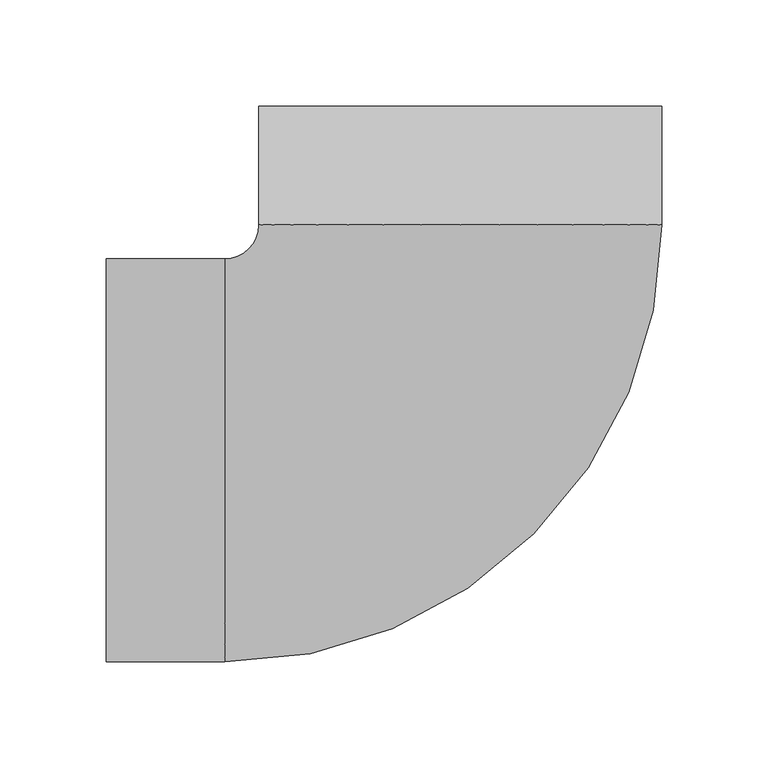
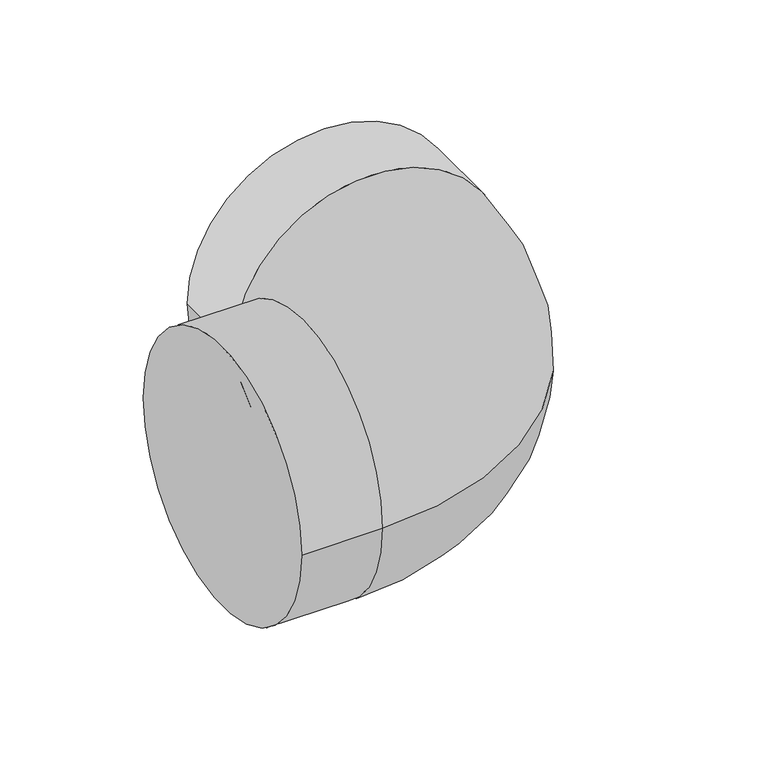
"""IFC4 building model written with IfcOpenShell, lengths in millimetres: pipe fitting geometry, PipeFitting_HTA_CPVC_Elbows : 160mm x 90°."""

from ifc_helpers import new_model, si_unit, point, frame, origin, place, context, project, spatial, circle_curve, ellipse_curve, trimmed, source, transform, mapped, element, save
from ifc_brep_helpers import plane_surface, cylinder_surface, revolved_surface, advanced_brep


def pipe_fitting_ff2f0a7f(model_context):
    return source(origin(), model_context, "Body", "AdvancedBrep", [
        advanced_brep(
        [(-167.0, -95.0, 0.0), (-167.0, 95.0, 0.0), (-111.0, -95.0, 0.0), (-111.0, 95.0, 0.0), (-95.0, 111.0, 0.0), (95.0, 111.0, 0.0), (95.0, 167.0, 0.0), (-95.0, 167.0, 0.0)],
        [
            (0, 1, circle_curve(frame((-167.0, 0.0, 0.0), z_axis=(-1.0, 0.0, 0.0), x_axis=(0.0, 1.0, 0.0)), 95.0)),
            (1, 0, circle_curve(frame((-167.0, 0.0, 0.0), z_axis=(-1.0, 0.0, 0.0), x_axis=(0.0, 1.0, 0.0)), 95.0)),
            (0, 2),
            (2, 3, circle_curve(frame((-111.0, 0.0, 0.0), z_axis=(-1.0, 0.0, 0.0), x_axis=(0.0, 1.0, 0.0)), 95.0)),
            (3, 1),
            (3, 2, circle_curve(frame((-111.0, 0.0, 0.0), z_axis=(-1.0, 0.0, 0.0), x_axis=(0.0, 1.0, 0.0)), 95.0)),
            (4, 3, circle_curve(frame((-111.0, 111.0, 0.0), z_axis=(0.0, 0.0, -1.0), x_axis=(0.0, -1.0, 0.0)), 16.0)),
            (2, 5, circle_curve(frame((-111.0, 111.0, 0.0), z_axis=(0.0, 0.0, 1.0), x_axis=(0.0, -1.0, 0.0)), 206.0)),
            (5, 4, circle_curve(frame((0.0, 111.0, 0.0), z_axis=(0.0, -1.0, 0.0), x_axis=(-1.0, 0.0, 0.0)), 95.0)),
            (4, 5, circle_curve(frame((0.0, 111.0, 0.0), z_axis=(0.0, -1.0, 0.0), x_axis=(-1.0, 0.0, 0.0)), 95.0)),
            (6, 7, circle_curve(frame((0.0, 167.0, 0.0), z_axis=(0.0, 1.0, 0.0), x_axis=(-1.0, 0.0, 0.0)), 95.0)),
            (7, 6, circle_curve(frame((0.0, 167.0, 0.0), z_axis=(0.0, 1.0, 0.0), x_axis=(-1.0, 0.0, 0.0)), 95.0)),
            (5, 6),
            (7, 4),
        ],
        [
            plane_surface(frame((-167.0, 0.0, 0.0), z_axis=(-1.0, 0.0, 0.0), x_axis=(0.0, 0.0, 1.0))),
            cylinder_surface(frame((-167.0, 0.0, 0.0), z_axis=(-1.0, 0.0, 0.0), x_axis=(0.0, 1.0, 0.0)), 95.0),
            revolved_surface(trimmed(ellipse_curve(frame((-111.0, 0.0, 0.0), z_axis=(-1.0, 0.0, 0.0), x_axis=(0.0, 1.0, 0.0)), 95.0, 95.0), [point((-111.0, -95.0, 0.0))], [point((-111.0, 95.0, 0.0))], True, "CARTESIAN"), (-111.0, 111.0, 0.0), (0.0, 0.0, 1.0)),
            revolved_surface(trimmed(ellipse_curve(frame((-111.0, 0.0, 0.0), z_axis=(-1.0, 0.0, 0.0), x_axis=(0.0, 1.0, 0.0)), 95.0, 95.0), [point((-111.0, 95.0, 0.0))], [point((-111.0, -95.0, 0.0))], True, "CARTESIAN"), (-111.0, 111.0, 0.0), (0.0, 0.0, 1.0)),
            plane_surface(frame((0.0, 167.0, 0.0), z_axis=(0.0, 1.0, 0.0), x_axis=(0.0, 0.0, 1.0))),
            cylinder_surface(frame((0.0, 111.0, 0.0), z_axis=(0.0, -1.0, 0.0), x_axis=(-1.0, 0.0, 0.0)), 95.0),
        ],
        [
            (0, [[1, 2]]),
            (1, [[-1, 3, 4, 5]]),
            (1, [[-2, -5, 6, -3]]),
            (2, [[7, -4, 8, 9]]),
            (3, [[-8, -6, -7, 10]]),
            (4, [[11, 12]]),
            (5, [[-9, 13, -12, 14]]),
            (5, [[-10, -14, -11, -13]]),
        ],
    ),
    ])


if __name__ == "__main__":
    model = new_model("IFC4")
    model_context = context("Model", 3, world=origin())
    ifc_project = project(units=[si_unit("LENGTHUNIT", "METRE", prefix="MILLI")], contexts=[model_context])
    site = spatial("IfcSite", under=ifc_project)
    building = spatial("IfcBuilding", under=site)
    placement = place(None, origin())
    pipe_fitting_shape = pipe_fitting_ff2f0a7f(model_context)
    element("IfcPipeFitting", 1, ObjectType="PipeFitting_HTA_CPVC_Elbows : 160mm x 90°", at=placement, inside=building, context=model_context, shape_type="MappedRepresentation", body=[
        mapped(pipe_fitting_shape, transform((0.0, 0.0, 0.0), x_axis=(1.0, 0.0, 0.0), y_axis=(0.0, 1.0, 0.0), z_axis=(0.0, 0.0, 1.0))),
    ])
    save(model, "model.ifc")
